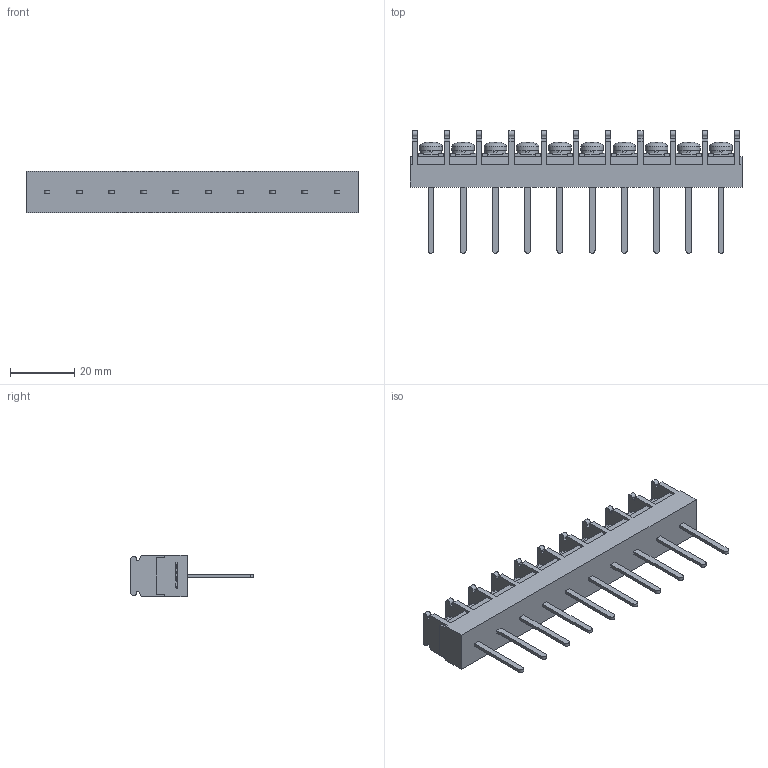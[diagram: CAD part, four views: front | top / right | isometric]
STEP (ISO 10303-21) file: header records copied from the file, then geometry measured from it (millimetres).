
FILE_DESCRIPTION(/* description */ ('Alibre Inc.'),/* implementation_level */ '2;1');
FILE_NAME(/* name */ 'export0',/* time_stamp */ '2015-10-17T19:27:47+09:00',/* author */ (''),/* organization */ (''),/* preprocessor_version */ 'ST-DEVELOPER v14',/* originating_system */ 'Alibre',/* authorisation */ '');
FILE_SCHEMA (('CONFIG_CONTROL_DESIGN'));
Length unit declared in the file: centimetre
Products named in the file (1): ID_1
Bounding box: 103 x 38 x 13 mm (x, y, z)
Volume: 16114.5 mm3; surface area: 10032.4 mm2
Topology: 1 solids, 17 shells, 1034 faces, 2820 edges, 1870 vertices
Faces by surface type: plane 778, bspline 104, cylinder 82, cone 40, torus 20, sphere 10
Full cylindrical faces by diameter (mm): 4 x10, 6.5 x10, 7 x10
Entity records: 31611 total; most frequent: CARTESIAN_POINT 6891, ORIENTED_EDGE 5500, DIRECTION 4010, EDGE_CURVE 2750, VECTOR 2018, LINE 2018, VERTEX_POINT 1840, AXIS2_PLACEMENT_3D 1385
